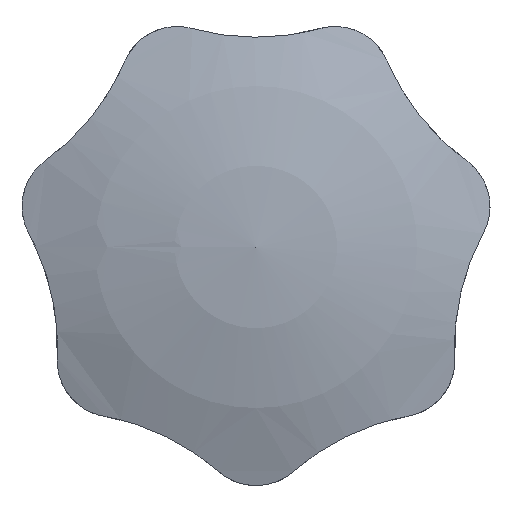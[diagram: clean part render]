
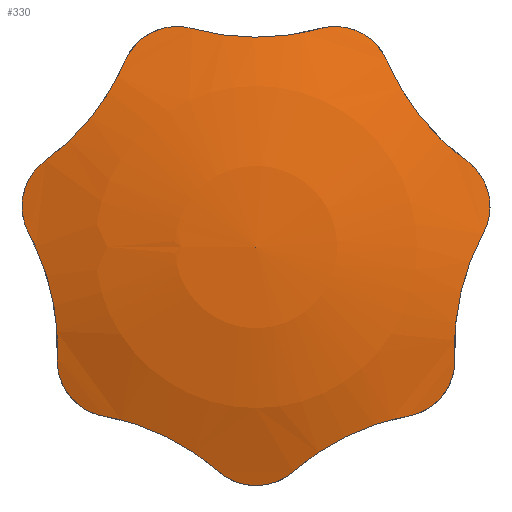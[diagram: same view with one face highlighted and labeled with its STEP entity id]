
A CAD part, left-side view. The second image highlights one B-rep face of the part: STEP entity #330.
In plain terms, the highlighted spherical face has radius 34.682 mm.
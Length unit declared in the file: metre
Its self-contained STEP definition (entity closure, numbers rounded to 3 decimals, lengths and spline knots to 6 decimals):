
#81=ORIENTED_EDGE('',*,*,#177,.F.);
#82=ORIENTED_EDGE('',*,*,#178,.T.);
#83=ORIENTED_EDGE('',*,*,#179,.F.);
#84=ORIENTED_EDGE('',*,*,#180,.T.);
#85=ORIENTED_EDGE('',*,*,#181,.F.);
#86=ORIENTED_EDGE('',*,*,#182,.T.);
#87=ORIENTED_EDGE('',*,*,#183,.T.);
#88=ORIENTED_EDGE('',*,*,#184,.T.);
#89=ORIENTED_EDGE('',*,*,#185,.F.);
#90=ORIENTED_EDGE('',*,*,#186,.T.);
#91=ORIENTED_EDGE('',*,*,#187,.T.);
#92=ORIENTED_EDGE('',*,*,#188,.T.);
#93=ORIENTED_EDGE('',*,*,#189,.F.);
#94=ORIENTED_EDGE('',*,*,#190,.T.);
#177=EDGE_CURVE('',#225,#226,#259,.T.);
#178=EDGE_CURVE('',#225,#227,#260,.T.);
#179=EDGE_CURVE('',#228,#227,#261,.T.);
#180=EDGE_CURVE('',#228,#229,#262,.T.);
#181=EDGE_CURVE('',#230,#229,#263,.T.);
#182=EDGE_CURVE('',#230,#231,#264,.T.);
#183=EDGE_CURVE('',#231,#232,#265,.T.);
#184=EDGE_CURVE('',#232,#233,#266,.T.);
#185=EDGE_CURVE('',#234,#233,#267,.T.);
#186=EDGE_CURVE('',#234,#235,#268,.T.);
#187=EDGE_CURVE('',#235,#236,#269,.T.);
#188=EDGE_CURVE('',#236,#237,#270,.T.);
#189=EDGE_CURVE('',#238,#237,#271,.T.);
#190=EDGE_CURVE('',#238,#226,#272,.T.);
#225=VERTEX_POINT('',#513);
#226=VERTEX_POINT('',#514);
#227=VERTEX_POINT('',#520);
#228=VERTEX_POINT('',#525);
#229=VERTEX_POINT('',#531);
#230=VERTEX_POINT('',#536);
#231=VERTEX_POINT('',#542);
#232=VERTEX_POINT('',#547);
#233=VERTEX_POINT('',#553);
#234=VERTEX_POINT('',#558);
#235=VERTEX_POINT('',#564);
#236=VERTEX_POINT('',#569);
#237=VERTEX_POINT('',#575);
#238=VERTEX_POINT('',#580);
#259=B_SPLINE_CURVE_WITH_KNOTS('',3,(#509,#510,#511,#512),.UNSPECIFIED.,
 .F.,.F.,(4,4),(0.003091,0.009937),.UNSPECIFIED.);
#260=B_SPLINE_CURVE_WITH_KNOTS('',3,(#515,#516,#517,#518,#519),
 .UNSPECIFIED.,.F.,.F.,(4,1,4),(0.,0.00217,0.004339),
 .UNSPECIFIED.);
#261=B_SPLINE_CURVE_WITH_KNOTS('',3,(#521,#522,#523,#524),.UNSPECIFIED.,
 .F.,.F.,(4,4),(0.003091,0.009937),.UNSPECIFIED.);
#262=B_SPLINE_CURVE_WITH_KNOTS('',3,(#526,#527,#528,#529,#530),
 .UNSPECIFIED.,.F.,.F.,(4,1,4),(0.,0.00217,0.004339),
 .UNSPECIFIED.);
#263=B_SPLINE_CURVE_WITH_KNOTS('',3,(#532,#533,#534,#535),.UNSPECIFIED.,
 .F.,.F.,(4,4),(0.003091,0.009937),.UNSPECIFIED.);
#264=B_SPLINE_CURVE_WITH_KNOTS('',3,(#537,#538,#539,#540,#541),
 .UNSPECIFIED.,.F.,.F.,(4,1,4),(0.,0.00217,
0.004339),.UNSPECIFIED.);
#265=B_SPLINE_CURVE_WITH_KNOTS('',3,(#543,#544,#545,#546),.UNSPECIFIED.,
 .F.,.F.,(4,4),(0.003091,0.009937),.UNSPECIFIED.);
#266=B_SPLINE_CURVE_WITH_KNOTS('',3,(#548,#549,#550,#551,#552),
 .UNSPECIFIED.,.F.,.F.,(4,1,4),(0.,0.00217,0.004339),
 .UNSPECIFIED.);
#267=B_SPLINE_CURVE_WITH_KNOTS('',3,(#554,#555,#556,#557),.UNSPECIFIED.,
 .F.,.F.,(4,4),(0.003091,0.009937),.UNSPECIFIED.);
#268=B_SPLINE_CURVE_WITH_KNOTS('',3,(#559,#560,#561,#562,#563),
 .UNSPECIFIED.,.F.,.F.,(4,1,4),(0.,0.00217,0.004339),
 .UNSPECIFIED.);
#269=B_SPLINE_CURVE_WITH_KNOTS('',3,(#565,#566,#567,#568),.UNSPECIFIED.,
 .F.,.F.,(4,4),(0.003091,0.009937),.UNSPECIFIED.);
#270=B_SPLINE_CURVE_WITH_KNOTS('',3,(#570,#571,#572,#573,#574),
 .UNSPECIFIED.,.F.,.F.,(4,1,4),(0.,0.00217,0.004339),
 .UNSPECIFIED.);
#271=B_SPLINE_CURVE_WITH_KNOTS('',3,(#576,#577,#578,#579),.UNSPECIFIED.,
 .F.,.F.,(4,4),(0.003091,0.009937),.UNSPECIFIED.);
#272=B_SPLINE_CURVE_WITH_KNOTS('',3,(#581,#582,#583,#584,#585),
 .UNSPECIFIED.,.F.,.F.,(4,1,4),(0.,0.00217,0.004339),
 .UNSPECIFIED.);
#273=EDGE_LOOP('',(#81,#82,#83,#84,#85,#86,#87,#88,#89,#90,#91,#92,#93,
#94));
#301=FACE_BOUND('',#273,.T.);
#329=SPHERICAL_SURFACE('',#365,0.034682);
#330=ADVANCED_FACE('',(#301),#329,.T.);
#365=AXIS2_PLACEMENT_3D('',#508,#409,#410);
#409=DIRECTION('',(1.,0.,0.));
#410=DIRECTION('',(0.,1.,0.));
#508=CARTESIAN_POINT('',(-0.091195,-0.008301,-0.025701));
#509=CARTESIAN_POINT('',(-0.123714,-0.015247,-0.015848));
#510=CARTESIAN_POINT('',(-0.124156,-0.016125,-0.017925));
#511=CARTESIAN_POINT('',(-0.124155,-0.017627,-0.019807));
#512=CARTESIAN_POINT('',(-0.123714,-0.019453,-0.021122));
#513=CARTESIAN_POINT('',(-0.123714,-0.015247,-0.015848));
#514=CARTESIAN_POINT('',(-0.123714,-0.019453,-0.021122));
#515=CARTESIAN_POINT('',(-0.123714,-0.015247,-0.015848));
#516=CARTESIAN_POINT('',(-0.123573,-0.014967,-0.015185));
#517=CARTESIAN_POINT('',(-0.12341,-0.013906,-0.014068));
#518=CARTESIAN_POINT('',(-0.123573,-0.012367,-0.013933));
#519=CARTESIAN_POINT('',(-0.123714,-0.011674,-0.014127));
#520=CARTESIAN_POINT('',(-0.123714,-0.011674,-0.014127));
#521=CARTESIAN_POINT('',(-0.123714,-0.004928,-0.014127));
#522=CARTESIAN_POINT('',(-0.124156,-0.0071,-0.014736));
#523=CARTESIAN_POINT('',(-0.124155,-0.009507,-0.014735));
#524=CARTESIAN_POINT('',(-0.123714,-0.011674,-0.014127));
#525=CARTESIAN_POINT('',(-0.123714,-0.004928,-0.014127));
#526=CARTESIAN_POINT('',(-0.123714,-0.004928,-0.014127));
#527=CARTESIAN_POINT('',(-0.123573,-0.004235,-0.013933));
#528=CARTESIAN_POINT('',(-0.12341,-0.0027,-0.014066));
#529=CARTESIAN_POINT('',(-0.123573,-0.001635,-0.015185));
#530=CARTESIAN_POINT('',(-0.123714,-0.001355,-0.015848));
#531=CARTESIAN_POINT('',(-0.123714,-0.001355,-0.015848));
#532=CARTESIAN_POINT('',(-0.123714,0.002851,-0.021122));
#533=CARTESIAN_POINT('',(-0.124156,0.001021,-0.019804));
#534=CARTESIAN_POINT('',(-0.124155,-0.000479,-0.017921));
#535=CARTESIAN_POINT('',(-0.123714,-0.001355,-0.015848));
#536=CARTESIAN_POINT('',(-0.123714,0.002851,-0.021122));
#537=CARTESIAN_POINT('',(-0.123714,0.002851,-0.021122));
#538=CARTESIAN_POINT('',(-0.123573,0.003434,-0.021543));
#539=CARTESIAN_POINT('',(-0.12341,0.004288,-0.022826));
#540=CARTESIAN_POINT('',(-0.123573,0.004077,-0.024356));
#541=CARTESIAN_POINT('',(-0.123714,0.003733,-0.024988));
#542=CARTESIAN_POINT('',(-0.123714,0.003733,-0.024988));
#543=CARTESIAN_POINT('',(-0.123714,0.003733,-0.024988));
#544=CARTESIAN_POINT('',(-0.124156,0.002656,-0.02697));
#545=CARTESIAN_POINT('',(-0.124155,0.002122,-0.029317));
#546=CARTESIAN_POINT('',(-0.123714,0.002232,-0.031565));
#547=CARTESIAN_POINT('',(-0.123714,0.002232,-0.031565));
#548=CARTESIAN_POINT('',(-0.123714,0.002232,-0.031565));
#549=CARTESIAN_POINT('',(-0.123573,0.002267,-0.032283));
#550=CARTESIAN_POINT('',(-0.12341,0.001796,-0.033751));
#551=CARTESIAN_POINT('',(-0.123573,0.000468,-0.03454));
#552=CARTESIAN_POINT('',(-0.123714,-0.000241,-0.034665));
#553=CARTESIAN_POINT('',(-0.123714,-0.000241,-0.034665));
#554=CARTESIAN_POINT('',(-0.123714,-0.006318,-0.037592));
#555=CARTESIAN_POINT('',(-0.124156,-0.004626,-0.036102));
#556=CARTESIAN_POINT('',(-0.124155,-0.002457,-0.035058));
#557=CARTESIAN_POINT('',(-0.123714,-0.000241,-0.034665));
#558=CARTESIAN_POINT('',(-0.123714,-0.006318,-0.037592));
#559=CARTESIAN_POINT('',(-0.123714,-0.006318,-0.037592));
#560=CARTESIAN_POINT('',(-0.123573,-0.006858,-0.038068));
#561=CARTESIAN_POINT('',(-0.12341,-0.008299,-0.038614));
#562=CARTESIAN_POINT('',(-0.123573,-0.009744,-0.038068));
#563=CARTESIAN_POINT('',(-0.123714,-0.010284,-0.037592));
#564=CARTESIAN_POINT('',(-0.123714,-0.010284,-0.037592));
#565=CARTESIAN_POINT('',(-0.123714,-0.010284,-0.037592));
#566=CARTESIAN_POINT('',(-0.124156,-0.011976,-0.036102));
#567=CARTESIAN_POINT('',(-0.124155,-0.014146,-0.035058));
#568=CARTESIAN_POINT('',(-0.123714,-0.016362,-0.034665));
#569=CARTESIAN_POINT('',(-0.123714,-0.016362,-0.034665));
#570=CARTESIAN_POINT('',(-0.123714,-0.016362,-0.034665));
#571=CARTESIAN_POINT('',(-0.123573,-0.01707,-0.03454));
#572=CARTESIAN_POINT('',(-0.12341,-0.018396,-0.033754));
#573=CARTESIAN_POINT('',(-0.123573,-0.018869,-0.032284));
#574=CARTESIAN_POINT('',(-0.123714,-0.018834,-0.031565));
#575=CARTESIAN_POINT('',(-0.123714,-0.018834,-0.031565));
#576=CARTESIAN_POINT('',(-0.123714,-0.020335,-0.024988));
#577=CARTESIAN_POINT('',(-0.124156,-0.019259,-0.02697));
#578=CARTESIAN_POINT('',(-0.124155,-0.018724,-0.029317));
#579=CARTESIAN_POINT('',(-0.123714,-0.018834,-0.031565));
#580=CARTESIAN_POINT('',(-0.123714,-0.020335,-0.024988));
#581=CARTESIAN_POINT('',(-0.123714,-0.020335,-0.024988));
#582=CARTESIAN_POINT('',(-0.123573,-0.020679,-0.024356));
#583=CARTESIAN_POINT('',(-0.12341,-0.020891,-0.02283));
#584=CARTESIAN_POINT('',(-0.123573,-0.020037,-0.021543));
#585=CARTESIAN_POINT('',(-0.123714,-0.019453,-0.021122));
